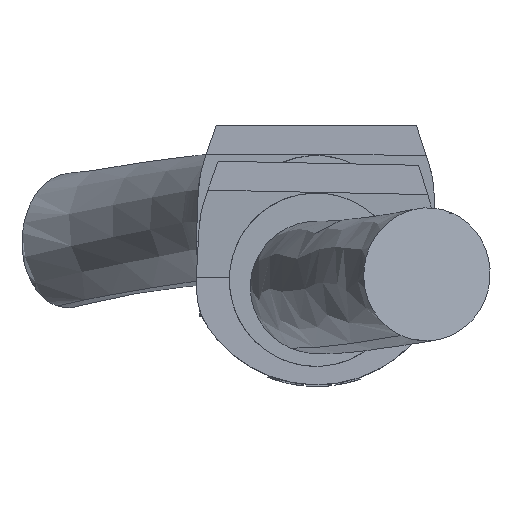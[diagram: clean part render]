
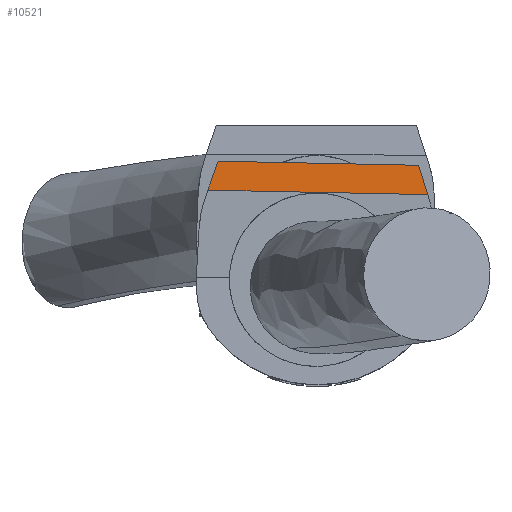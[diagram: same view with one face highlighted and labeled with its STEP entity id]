
A CAD part, top view. The second image highlights one B-rep face of the part: STEP entity #10521.
In plain terms, the highlighted planar face has unit normal (0.001, 0.035, 0.999).
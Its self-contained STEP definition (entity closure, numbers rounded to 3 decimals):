
#69 = CARTESIAN_POINT ( 'NONE',  ( 437.042, -435.385, 1831.502 ) ) ;
#312 = LINE ( 'NONE', #10834, #8889 ) ;
#523 = FACE_OUTER_BOUND ( 'NONE', #3246, .T. ) ;
#864 = CARTESIAN_POINT ( 'NONE',  ( 307.468, -414.761, 1830.873 ) ) ;
#1214 = LINE ( 'NONE', #4618, #7990 ) ;
#1460 = CARTESIAN_POINT ( 'NONE',  ( 269.112, -431.99, 1831.502 ) ) ;
#1518 = DIRECTION ( 'NONE',  ( -0.001, -0.035, -0.999 ) ) ;
#2663 = VERTEX_POINT ( 'NONE', #864 ) ;
#2742 = ORIENTED_EDGE ( 'NONE', *, *, #5687, .F. ) ;
#2892 = CARTESIAN_POINT ( 'NONE',  ( 431.443, -417.268, 1830.873 ) ) ;
#3246 = EDGE_LOOP ( 'NONE', ( #4993, #9270, #3949, #2742 ) ) ;
#3949 = ORIENTED_EDGE ( 'NONE', *, *, #10858, .F. ) ;
#4490 = VECTOR ( 'NONE', #8101, 1000. ) ;
#4576 = CARTESIAN_POINT ( 'NONE',  ( 269.112, -431.99, 1831.502 ) ) ;
#4618 = CARTESIAN_POINT ( 'NONE',  ( 307.468, -414.761, 1830.873 ) ) ;
#4993 = ORIENTED_EDGE ( 'NONE', *, *, #8080, .T. ) ;
#5616 = DIRECTION ( 'NONE',  ( 1., -0.02, 0. ) ) ;
#5687 = EDGE_CURVE ( 'NONE', #6786, #2663, #312, .T. ) ;
#6786 = VERTEX_POINT ( 'NONE', #7021 ) ;
#6883 = PLANE ( 'NONE',  #7066 ) ;
#7021 = CARTESIAN_POINT ( 'NONE',  ( 301.141, -432.637, 1831.502 ) ) ;
#7066 = AXIS2_PLACEMENT_3D ( 'NONE', #1460, #1518, #7529 ) ;
#7487 = LINE ( 'NONE', #10770, #7638 ) ;
#7529 = DIRECTION ( 'NONE',  ( 0.02, 0.999, -0.035 ) ) ;
#7638 = VECTOR ( 'NONE', #10999, 1000. ) ;
#7990 = VECTOR ( 'NONE', #5616, 1000. ) ;
#8080 = EDGE_CURVE ( 'NONE', #6786, #9890, #10687, .T. ) ;
#8101 = DIRECTION ( 'NONE',  ( 1., -0.02, 0. ) ) ;
#8276 = EDGE_CURVE ( 'NONE', #10384, #9890, #7487, .T. ) ;
#8299 = DIRECTION ( 'NONE',  ( 0.333, 0.942, -0.033 ) ) ;
#8889 = VECTOR ( 'NONE', #8299, 1000. ) ;
#9270 = ORIENTED_EDGE ( 'NONE', *, *, #8276, .F. ) ;
#9890 = VERTEX_POINT ( 'NONE', #69 ) ;
#10384 = VERTEX_POINT ( 'NONE', #2892 ) ;
#10521 = ADVANCED_FACE ( 'NONE', ( #523 ), #6883, .F. ) ;
#10687 = LINE ( 'NONE', #4576, #4490 ) ;
#10770 = CARTESIAN_POINT ( 'NONE',  ( 437.778, -437.765, 1831.584 ) ) ;
#10834 = CARTESIAN_POINT ( 'NONE',  ( 300.31, -434.986, 1831.584 ) ) ;
#10858 = EDGE_CURVE ( 'NONE', #2663, #10384, #1214, .T. ) ;
#10999 = DIRECTION ( 'NONE',  ( 0.295, -0.955, 0.033 ) ) ;
